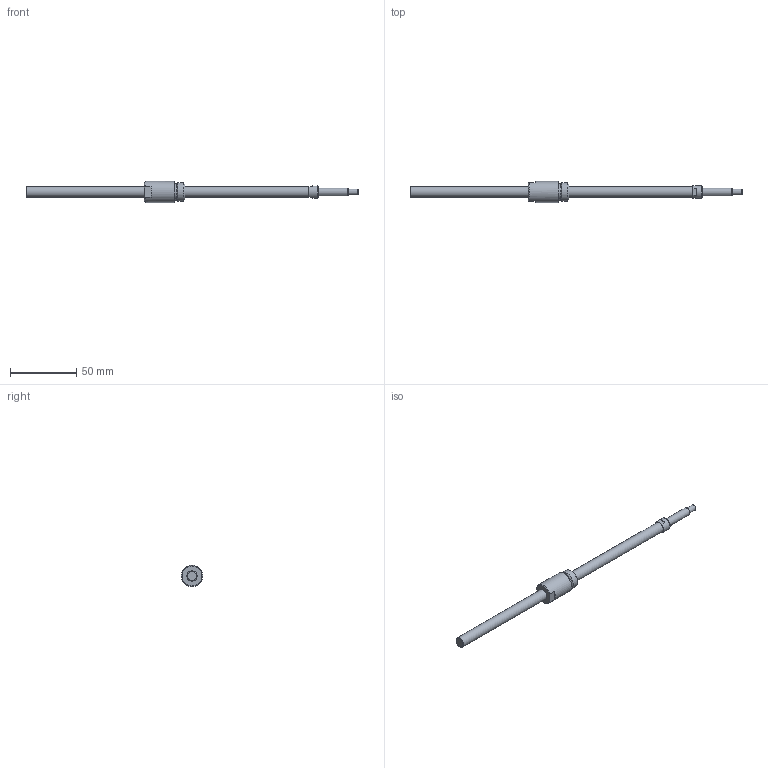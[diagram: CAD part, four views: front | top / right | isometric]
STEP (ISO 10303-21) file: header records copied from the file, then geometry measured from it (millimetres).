
FILE_DESCRIPTION(/* description */ ('STEP AP214'),/* implementation_level */ '2;1');
FILE_NAME(/* name */ 'NSG0805-209R250C5A0X(89.2)',/* time_stamp */ '2026-08-20T15:48:21+02:00',/* author */ ('License CC BY-ND 4.0'),/* organization */ ('CADENAS'),/* preprocessor_version */ 'ST-DEVELOPER v20',/* originating_system */ 'PARTsolutions',/* authorisation */ ' ');
FILE_SCHEMA (('AUTOMOTIVE_DESIGN {1 0 10303 214 3 1 1}'));
Length unit declared in the file: millimetre
Products named in the file (3): NSG0805-209R250C5A0X(89.2); NSG0805-209R250C3A_shaft; NSG0805_nut
Assembly tree (2 placements, depth 2):
  NSG0805-209R250C5A0X(89.2)
    NSG0805-209R250C3A_shaft
    NSG0805_nut
Bounding box: 250 x 16 x 16 mm (x, y, z)
Volume: 16005.1 mm3; surface area: 8748.1 mm2
Topology: 2 solids, 2 shells, 35 faces, 72 edges, 44 vertices
Faces by surface type: plane 17, cone 9, cylinder 8, torus 1
Full cylindrical faces by diameter (mm): 4.5 x1, 6 x1, 8 x2, 9.5 x1, 12.4 x1, 14 x1, 16 x1
Entity records: 907 total; most frequent: DIRECTION 158, CARTESIAN_POINT 146, ORIENTED_EDGE 108, AXIS2_PLACEMENT_3D 70, EDGE_LOOP 56, FACE_BOUND 56, EDGE_CURVE 54, VERTEX_POINT 42
